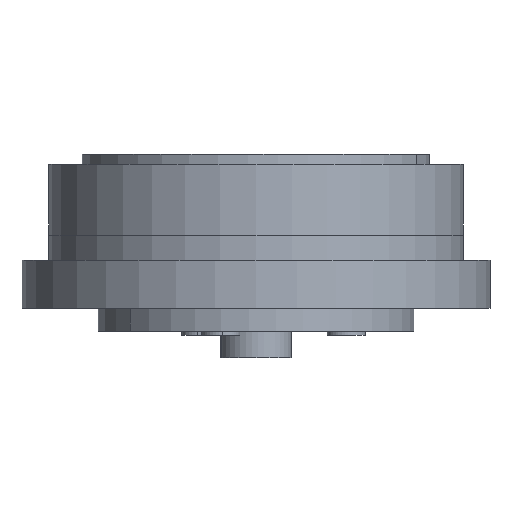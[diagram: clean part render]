
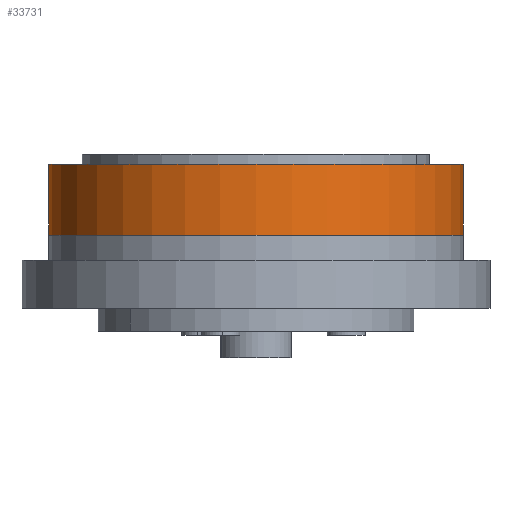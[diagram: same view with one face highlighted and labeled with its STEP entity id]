
A CAD part, front view. The second image highlights one B-rep face of the part: STEP entity #33731.
In plain terms, the highlighted cylindrical face has radius 163.75 mm (diameter 327.5 mm), a partial arc.
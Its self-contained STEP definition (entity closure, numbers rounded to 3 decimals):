
#626 = DIRECTION ( 'NONE',  ( 0., 0., 1. ) ) ;
#2713 = VERTEX_POINT ( 'NONE', #8738 ) ;
#2880 = EDGE_CURVE ( 'NONE', #25068, #14760, #29557, .T. ) ;
#2969 = CIRCLE ( 'NONE', #32721, 163.75 ) ;
#3040 = AXIS2_PLACEMENT_3D ( 'NONE', #19218, #626, #14140 ) ;
#3327 = CARTESIAN_POINT ( 'NONE',  ( 261.486, -28.525, 755.977 ) ) ;
#4241 = EDGE_CURVE ( 'NONE', #2713, #14760, #2969, .T. ) ;
#4291 = EDGE_CURVE ( 'NONE', #6838, #2713, #7106, .T. ) ;
#5095 = DIRECTION ( 'NONE',  ( 1., 0., 0. ) ) ;
#6838 = VERTEX_POINT ( 'NONE', #9707 ) ;
#7106 = LINE ( 'NONE', #13108, #13344 ) ;
#8738 = CARTESIAN_POINT ( 'NONE',  ( -66.014, -28.525, 811.977 ) ) ;
#9707 = CARTESIAN_POINT ( 'NONE',  ( -66.014, -28.525, 755.977 ) ) ;
#10881 = DIRECTION ( 'NONE',  ( 0., 0., 1. ) ) ;
#12459 = DIRECTION ( 'NONE',  ( 1., 0., 0. ) ) ;
#12632 = CIRCLE ( 'NONE', #3040, 163.75 ) ;
#13108 = CARTESIAN_POINT ( 'NONE',  ( -66.014, -28.525, 755.977 ) ) ;
#13344 = VECTOR ( 'NONE', #10881, 1000. ) ;
#14140 = DIRECTION ( 'NONE',  ( 1., 0., 0. ) ) ;
#14760 = VERTEX_POINT ( 'NONE', #27126 ) ;
#15253 = CARTESIAN_POINT ( 'NONE',  ( 97.736, -28.525, 755.977 ) ) ;
#15945 = ORIENTED_EDGE ( 'NONE', *, *, #2880, .T. ) ;
#17559 = ORIENTED_EDGE ( 'NONE', *, *, #26359, .T. ) ;
#18603 = AXIS2_PLACEMENT_3D ( 'NONE', #15253, #25972, #12459 ) ;
#18848 = DIRECTION ( 'NONE',  ( 0., 0., 1. ) ) ;
#19069 = CARTESIAN_POINT ( 'NONE',  ( 261.486, -28.525, 755.977 ) ) ;
#19218 = CARTESIAN_POINT ( 'NONE',  ( 97.736, -28.525, 755.977 ) ) ;
#23351 = EDGE_LOOP ( 'NONE', ( #30431, #17559, #15945, #28866 ) ) ;
#23785 = VECTOR ( 'NONE', #18848, 1000. ) ;
#25068 = VERTEX_POINT ( 'NONE', #19069 ) ;
#25972 = DIRECTION ( 'NONE',  ( 0., 0., 1. ) ) ;
#26359 = EDGE_CURVE ( 'NONE', #6838, #25068, #12632, .T. ) ;
#26481 = CARTESIAN_POINT ( 'NONE',  ( 97.736, -28.525, 811.977 ) ) ;
#26559 = CYLINDRICAL_SURFACE ( 'NONE', #18603, 163.75 ) ;
#27126 = CARTESIAN_POINT ( 'NONE',  ( 261.486, -28.525, 811.977 ) ) ;
#28866 = ORIENTED_EDGE ( 'NONE', *, *, #4241, .F. ) ;
#29557 = LINE ( 'NONE', #3327, #23785 ) ;
#30431 = ORIENTED_EDGE ( 'NONE', *, *, #4291, .F. ) ;
#32721 = AXIS2_PLACEMENT_3D ( 'NONE', #26481, #34062, #5095 ) ;
#33536 = FACE_OUTER_BOUND ( 'NONE', #23351, .T. ) ;
#33731 = ADVANCED_FACE ( 'NONE', ( #33536 ), #26559, .T. ) ;
#34062 = DIRECTION ( 'NONE',  ( 0., 0., 1. ) ) ;
